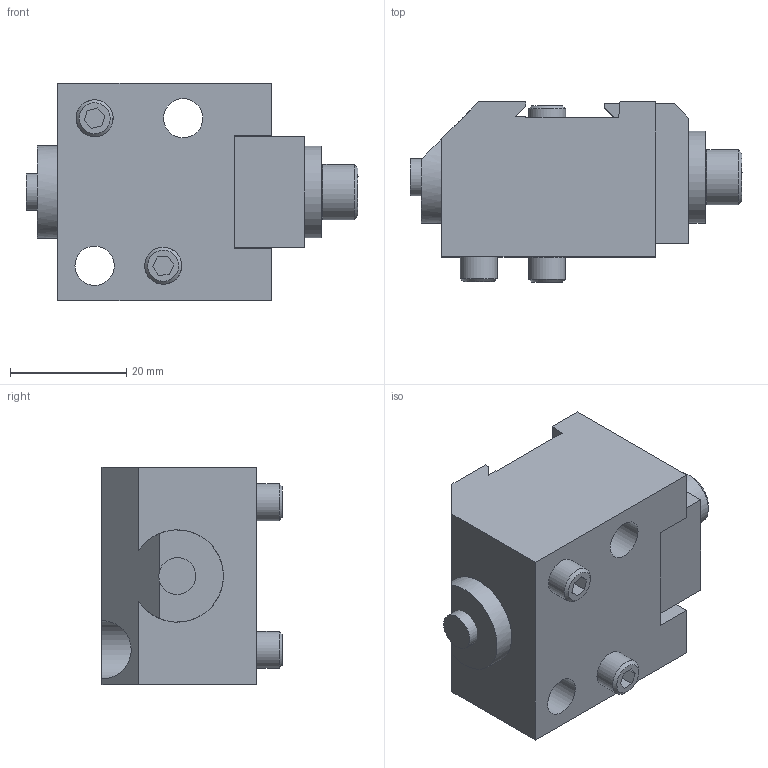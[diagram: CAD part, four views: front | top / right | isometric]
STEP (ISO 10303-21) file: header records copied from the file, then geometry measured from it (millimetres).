
FILE_DESCRIPTION (( 'STEP AP214' ), '1' );
FILE_NAME ('D115_WEBSITE.STEP', '2025-08-11T13:27:15', ( '' ), ( '' ), 'SwSTEP 2.0', 'SolidWorks 2025', '' );
FILE_SCHEMA (( 'AUTOMOTIVE_DESIGN' ));
Length unit declared in the file: inch
Products named in the file (8): D_SLD25_WEBSITE_SLD25; D_HW.0250.FW_WEBSITE; D_HW.LCM110E01M_WEBSITE; D_CDS25_WEBSITE_MILL OP2; D_HW.73072_WEBSITE; D_LP250_WEBSITE; D_D115-1_WEBSITE; D115_WEBSITE
Assembly tree (9 placements, depth 2):
  D115_WEBSITE
    D_D115-1_WEBSITE
    D_LP250_WEBSITE  x3
    D_CDS25_WEBSITE_MILL OP2
    D_SLD25_WEBSITE_SLD25
    D_HW.0250.FW_WEBSITE
    D_HW.73072_WEBSITE
    D_HW.LCM110E01M_WEBSITE
Bounding box: 57.15 x 30.99 x 37.47 mm (x, y, z)
Volume: 35075.8 mm3; surface area: 17842.4 mm2
Topology: 9 solids, 9 shells, 142 faces, 313 edges, 203 vertices
Faces by surface type: plane 90, cylinder 28, cone 20, bspline 4
Full cylindrical faces by diameter (mm): 3.759 x3, 4.039 x2, 5.41 x1, 6.35 x4, 6.365 x3, 6.604 x1, 6.756 x3, 7.144 x1, 9.525 x2, 10.033 x2, 12.69 x1, 12.7 x1, 12.738 x2, 15.875 x1
Entity records: 4699 total; most frequent: CARTESIAN_POINT 1953, DIRECTION 489, ORIENTED_EDGE 412, EDGE_CURVE 206, AXIS2_PLACEMENT_3D 185, EDGE_LOOP 173, VERTEX_POINT 151, FACE_OUTER_BOUND 137
